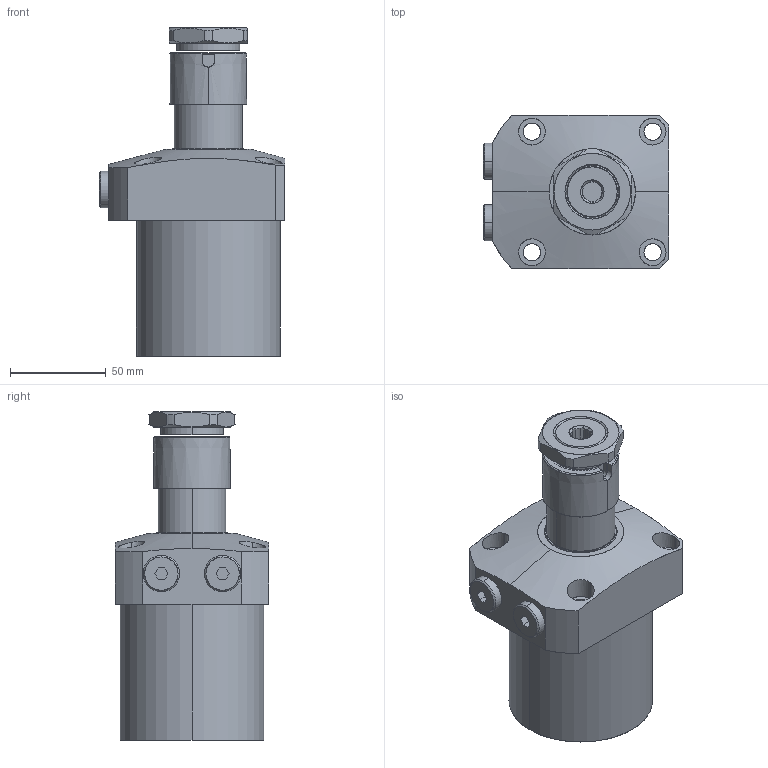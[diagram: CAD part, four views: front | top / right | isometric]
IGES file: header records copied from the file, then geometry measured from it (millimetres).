
Start section: SolidWorks IGES file using analytic representation for surfaces
Global section: file name: D:\abhilash\nijil\cylinder\lv\750\0301-0401.IGS; native system: SolidWorks 2010; preprocessor: SolidWorks 2010; author: nidheesh; date: 130730.142202; units: millimetre
Bounding box: 97 x 80 x 171.5 mm (x, y, z)
Surface area: 60914.2 mm2 (no closed solid volume)
Topology: 0 solids, 0 shells, 162 faces, 3572 edges, 3572 vertices
Faces by surface type: revolution 86, bspline 76
